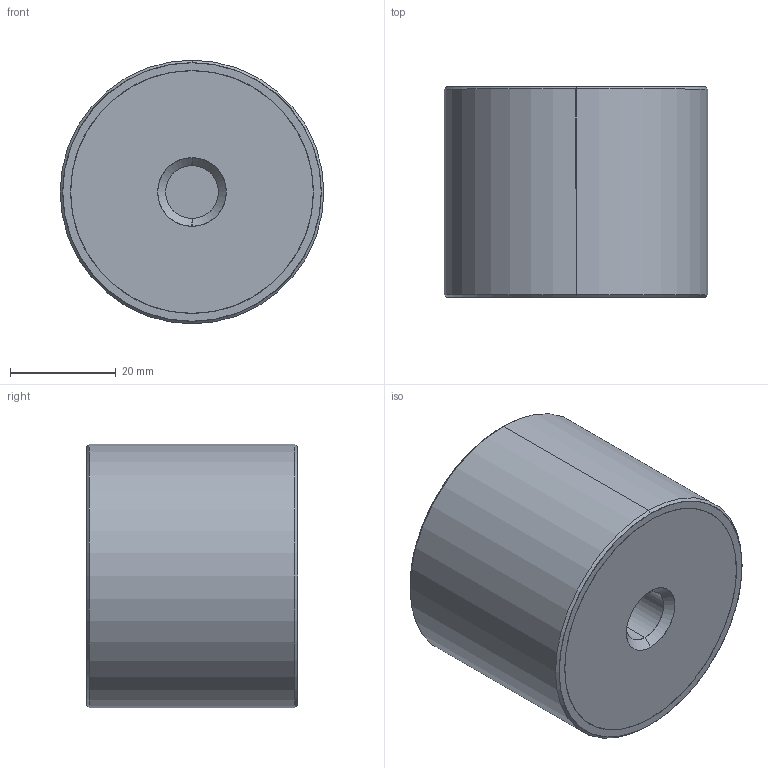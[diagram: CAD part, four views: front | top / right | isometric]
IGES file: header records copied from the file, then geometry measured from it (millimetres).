
Start section: SolidWorks IGES file using analytic representation for surfaces
Global section: file name: E:\WIXROYD 20180701\61080_v2\61080_v2_20180409_IGES\61080.W0502.igs; native system: SolidWorks 2017; preprocessor: SolidWorks 2017; author: liam_; date: 180716.214518; units: millimetre
Bounding box: 50 x 40 x 50 mm (x, y, z)
Surface area: 17897 mm2 (no closed solid volume)
Topology: 0 solids, 0 shells, 32 faces, 984 edges, 984 vertices
Faces by surface type: revolution 22, bspline 10
